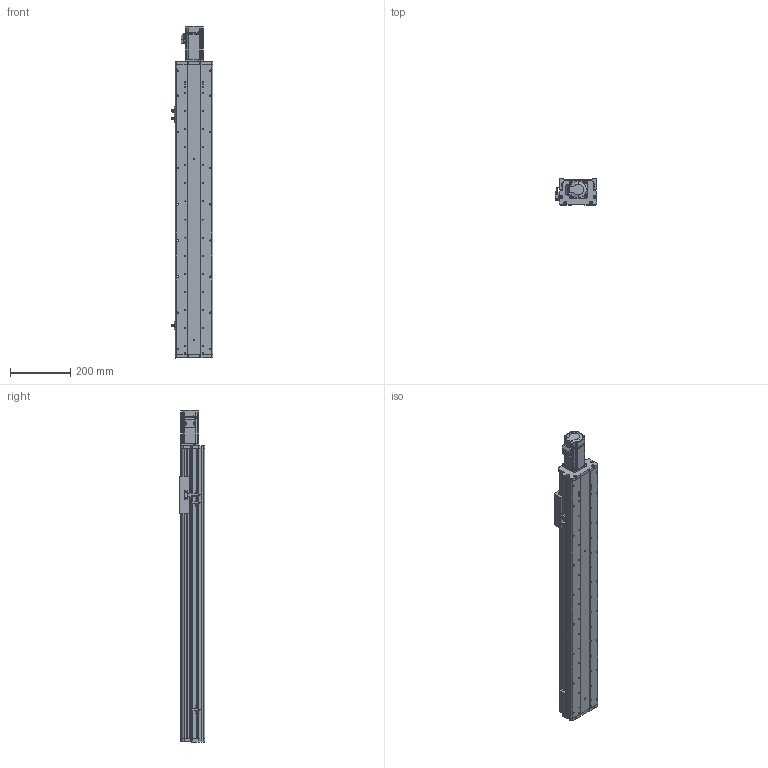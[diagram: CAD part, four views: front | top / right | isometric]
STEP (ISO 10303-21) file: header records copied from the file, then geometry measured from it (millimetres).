
FILE_DESCRIPTION (( 'STEP AP214' ), '1' );
FILE_NAME ('KSD125S-S700-MN-CM.STEP', '2017-08-07T06:16:14', ( '微软用户' ), ( '微软中国' ), 'SwSTEP 2.0', 'SolidWorks 2014', '' );
FILE_SCHEMA (( 'AUTOMOTIVE_DESIGN' ));
Length unit declared in the file: millimetre
Products named in the file (12): CS-34X32-10X14; 125-帣傷啣1; KSD125S-S700-MN-CM; KSD125S-700行程丝杆防尘盖-直连不带电机座; KSD125S-700行程丝杆底板-直连不带电机座; 125宽模组 - 直连不带电机座电机安装板; MHMD042G1CA_2_03; 拸萇儂釱滅袉菜; 覜茼え68遵圉猾敕; U倰嫖萇假蚾璃; U倰嫖萇EEㄜSX672; KSD125-賑雄釱1
Assembly tree (15 placements, depth 2):
  KSD125S-S700-MN-CM
    125-帣傷啣1
    CS-34X32-10X14
    KSD125-賑雄釱1
    U倰嫖萇EEㄜSX672  x3
    U倰嫖萇假蚾璃  x3
    覜茼え68遵圉猾敕
    拸萇儂釱滅袉菜
    MHMD042G1CA_2_03
    125宽模组 - 直连不带电机座电机安装板
    KSD125S-700行程丝杆底板-直连不带电机座
    KSD125S-700行程丝杆防尘盖-直连不带电机座
Bounding box: 138.7 x 86 x 1101.5 mm (x, y, z)
Volume: 3184687.5 mm3; surface area: 1048141 mm2
Topology: 14 solids, 17 shells, 1482 faces, 4293 edges, 2825 vertices
Faces by surface type: cylinder 748, plane 621, cone 91, bspline 22
Entity records: 52350 total; most frequent: CARTESIAN_POINT 11160, DIRECTION 7425, ORIENTED_EDGE 7094, EDGE_CURVE 3625, AXIS2_PLACEMENT_3D 2732, VERTEX_POINT 2417, LINE 1961, VECTOR 1961
